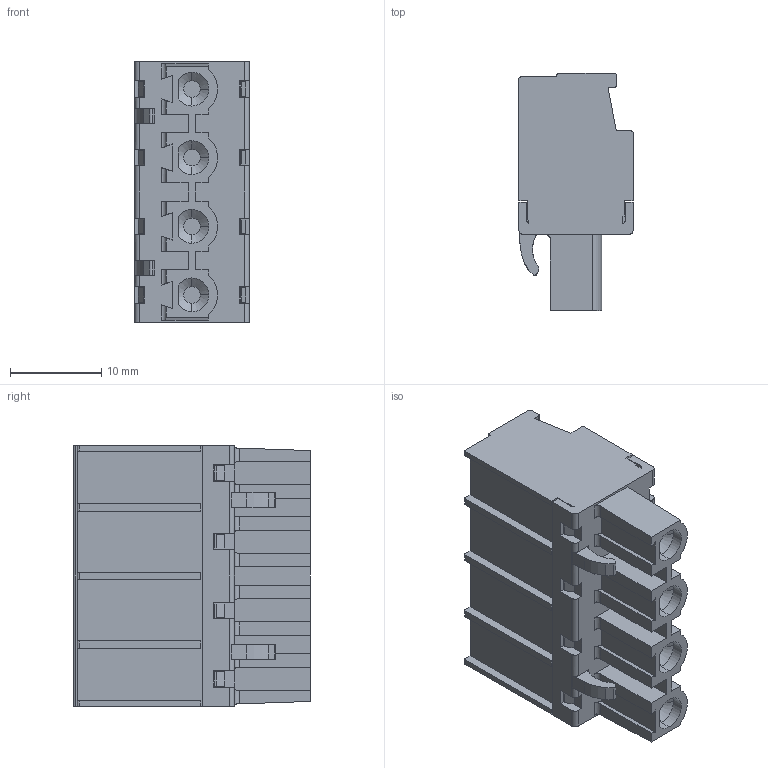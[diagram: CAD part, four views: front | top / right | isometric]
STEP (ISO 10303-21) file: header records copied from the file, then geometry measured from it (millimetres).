
FILE_DESCRIPTION (( 'STEP AP214' ), '1' );
FILE_NAME ('122-D-111-04.STEP', '2008-01-21T16:56:40', ( 'weco' ), ( 'weco' ), 'SwSTEP 2.0', 'SolidWorks 2007', '' );
FILE_SCHEMA (( 'AUTOMOTIVE_DESIGN' ));
Length unit declared in the file: millimetre
Products named in the file (1): 122-D-111-04
Bounding box: 12.5 x 25.9 x 28.5 mm (x, y, z)
Volume: 5843.5 mm3; surface area: 3931.1 mm2
Topology: 1 solids, 1 shells, 526 faces, 1487 edges, 956 vertices
Faces by surface type: plane 396, cylinder 106, cone 24
Entity records: 16826 total; most frequent: CARTESIAN_POINT 3028, ORIENTED_EDGE 2974, DIRECTION 2755, EDGE_CURVE 1487, VECTOR 1245, LINE 1245, VERTEX_POINT 956, AXIS2_PLACEMENT_3D 755
